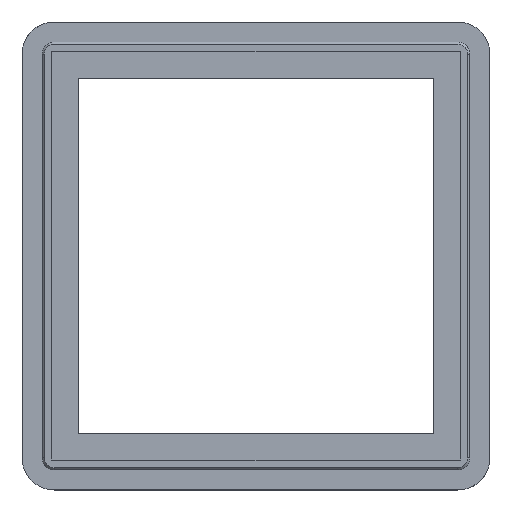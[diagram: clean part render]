
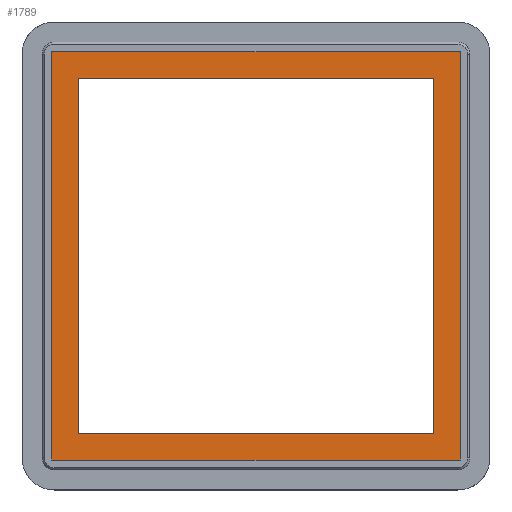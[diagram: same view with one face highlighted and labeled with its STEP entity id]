
A CAD part, top view. The second image highlights one B-rep face of the part: STEP entity #1789.
In plain terms, the highlighted free-form (B-spline) face has degree [1, 1] with [2, 2] control points.
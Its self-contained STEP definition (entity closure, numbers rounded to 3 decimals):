
#814 = VERTEX_POINT('',#815);
#815 = CARTESIAN_POINT('',(22.,-22.,8.2));
#822 = VERTEX_POINT('',#823);
#823 = CARTESIAN_POINT('',(-22.,-22.,8.2));
#828 = EDGE_CURVE('',#822,#814,#829,.T.);
#829 = B_SPLINE_CURVE_WITH_KNOTS('',1,(#830,#831),.UNSPECIFIED.,.F.,.F.,
  (2,2),(1.65,45.65),.PIECEWISE_BEZIER_KNOTS.);
#830 = CARTESIAN_POINT('',(-22.,-22.,8.2));
#831 = CARTESIAN_POINT('',(22.,-22.,8.2));
#844 = VERTEX_POINT('',#845);
#845 = CARTESIAN_POINT('',(22.,22.,8.2));
#850 = EDGE_CURVE('',#844,#814,#851,.T.);
#851 = B_SPLINE_CURVE_WITH_KNOTS('',1,(#852,#853),.UNSPECIFIED.,.F.,.F.,
  (2,2),(-45.65,-1.65),.PIECEWISE_BEZIER_KNOTS.);
#852 = CARTESIAN_POINT('',(22.,22.,8.2));
#853 = CARTESIAN_POINT('',(22.,-22.,8.2));
#866 = VERTEX_POINT('',#867);
#867 = CARTESIAN_POINT('',(-22.,22.,8.2));
#872 = EDGE_CURVE('',#866,#844,#873,.T.);
#873 = B_SPLINE_CURVE_WITH_KNOTS('',1,(#874,#875),.UNSPECIFIED.,.F.,.F.,
  (2,2),(1.65,45.65),.PIECEWISE_BEZIER_KNOTS.);
#874 = CARTESIAN_POINT('',(-22.,22.,8.2));
#875 = CARTESIAN_POINT('',(22.,22.,8.2));
#888 = EDGE_CURVE('',#866,#822,#889,.T.);
#889 = B_SPLINE_CURVE_WITH_KNOTS('',1,(#890,#891),.UNSPECIFIED.,.F.,.F.,
  (2,2),(-45.65,-1.65),.PIECEWISE_BEZIER_KNOTS.);
#890 = CARTESIAN_POINT('',(-22.,22.,8.2));
#891 = CARTESIAN_POINT('',(-22.,-22.,8.2));
#1789 = ADVANCED_FACE('',(#1790,#1820),#1826,.T.);
#1790 = FACE_BOUND('',#1791,.T.);
#1791 = EDGE_LOOP('',(#1792,#1801,#1808,#1815));
#1792 = ORIENTED_EDGE('',*,*,#1793,.F.);
#1793 = EDGE_CURVE('',#1794,#1796,#1798,.T.);
#1794 = VERTEX_POINT('',#1795);
#1795 = CARTESIAN_POINT('',(-25.3,-25.3,8.2));
#1796 = VERTEX_POINT('',#1797);
#1797 = CARTESIAN_POINT('',(-25.3,25.3,8.2));
#1798 = B_SPLINE_CURVE_WITH_KNOTS('',1,(#1799,#1800),.UNSPECIFIED.,.F.,
  .F.,(2,2),(0.,50.6),.PIECEWISE_BEZIER_KNOTS.);
#1799 = CARTESIAN_POINT('',(-25.3,-25.3,8.2));
#1800 = CARTESIAN_POINT('',(-25.3,25.3,8.2));
#1801 = ORIENTED_EDGE('',*,*,#1802,.T.);
#1802 = EDGE_CURVE('',#1794,#1803,#1805,.T.);
#1803 = VERTEX_POINT('',#1804);
#1804 = CARTESIAN_POINT('',(25.3,-25.3,8.2));
#1805 = B_SPLINE_CURVE_WITH_KNOTS('',1,(#1806,#1807),.UNSPECIFIED.,.F.,
  .F.,(2,2),(0.,50.6),.PIECEWISE_BEZIER_KNOTS.);
#1806 = CARTESIAN_POINT('',(-25.3,-25.3,8.2));
#1807 = CARTESIAN_POINT('',(25.3,-25.3,8.2));
#1808 = ORIENTED_EDGE('',*,*,#1809,.T.);
#1809 = EDGE_CURVE('',#1803,#1810,#1812,.T.);
#1810 = VERTEX_POINT('',#1811);
#1811 = CARTESIAN_POINT('',(25.3,25.3,8.2));
#1812 = B_SPLINE_CURVE_WITH_KNOTS('',1,(#1813,#1814),.UNSPECIFIED.,.F.,
  .F.,(2,2),(0.,50.6),.PIECEWISE_BEZIER_KNOTS.);
#1813 = CARTESIAN_POINT('',(25.3,-25.3,8.2));
#1814 = CARTESIAN_POINT('',(25.3,25.3,8.2));
#1815 = ORIENTED_EDGE('',*,*,#1816,.F.);
#1816 = EDGE_CURVE('',#1796,#1810,#1817,.T.);
#1817 = B_SPLINE_CURVE_WITH_KNOTS('',1,(#1818,#1819),.UNSPECIFIED.,.F.,
  .F.,(2,2),(0.,50.6),.PIECEWISE_BEZIER_KNOTS.);
#1818 = CARTESIAN_POINT('',(-25.3,25.3,8.2));
#1819 = CARTESIAN_POINT('',(25.3,25.3,8.2));
#1820 = FACE_BOUND('',#1821,.T.);
#1821 = EDGE_LOOP('',(#1822,#1823,#1824,#1825));
#1822 = ORIENTED_EDGE('',*,*,#828,.F.);
#1823 = ORIENTED_EDGE('',*,*,#888,.F.);
#1824 = ORIENTED_EDGE('',*,*,#872,.T.);
#1825 = ORIENTED_EDGE('',*,*,#850,.T.);
#1826 = B_SPLINE_SURFACE_WITH_KNOTS('',1,1,(
    (#1827,#1828)
    ,(#1829,#1830
    )),.UNSPECIFIED.,.F.,.F.,.F.,(2,2),(2,2),(0.,50.6),(0.,50.6),
  .PIECEWISE_BEZIER_KNOTS.);
#1827 = CARTESIAN_POINT('',(-25.3,-25.3,8.2));
#1828 = CARTESIAN_POINT('',(-25.3,25.3,8.2));
#1829 = CARTESIAN_POINT('',(25.3,-25.3,8.2));
#1830 = CARTESIAN_POINT('',(25.3,25.3,8.2));
